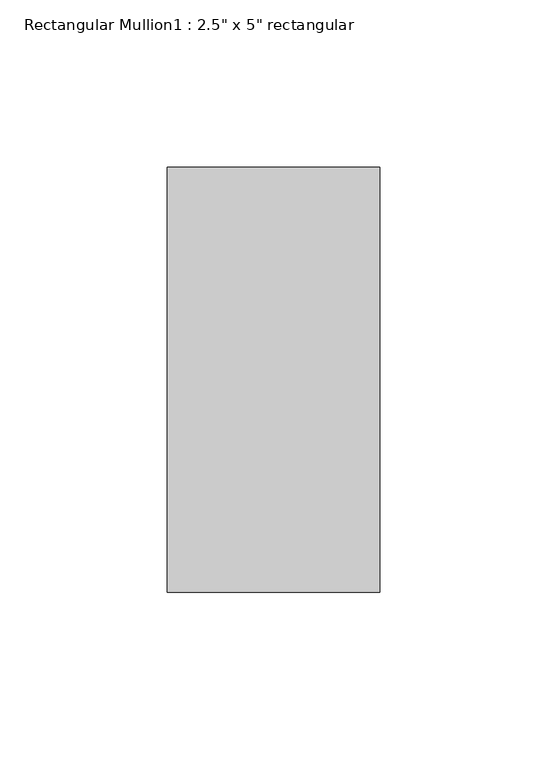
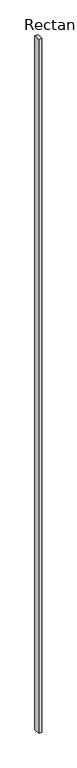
"""IFC4 building model written with IfcOpenShell, lengths in millimetres: member geometry."""

from ifc_helpers import new_model, si_unit, frame, origin, place, context, project, spatial, polyline, outline, extrude, source, transform, mapped, element, save


def member_bd9c79d2(model_context):
    return source(origin(), model_context, "Body", "SweptSolid", [
        extrude(outline(polyline([(0.0, 63.5), (0.0, -63.5), (-63.5, -63.5), (-63.5, 63.5), (0.0, 63.5)])), frame((0.0, 0.0, -14960.6), z_axis=(0.0, 0.0, 1.0), x_axis=(1.0, 0.0, 0.0)), (0.0, 0.0, 1.0), 14960.6),
    ])


if __name__ == "__main__":
    model = new_model("IFC4")
    model_context = context("Model", 3, world=origin())
    ifc_project = project(units=[si_unit("LENGTHUNIT", "METRE", prefix="MILLI")], contexts=[model_context])
    site = spatial("IfcSite", under=ifc_project)
    building = spatial("IfcBuilding", under=site)
    placement = place(None, origin())
    member_shape = member_bd9c79d2(model_context)
    element("IfcMember", 1, ObjectType="Rectangular Mullion1 : 2.5\" x 5\" rectangular", at=placement, inside=building, context=model_context, shape_type="MappedRepresentation", body=[
        mapped(member_shape, transform((0.0, 0.0, 0.0), x_axis=(1.0, 0.0, 0.0), y_axis=(0.0, 1.0, 0.0), z_axis=(0.0, 0.0, 1.0))),
    ])
    save(model, "model.ifc")
